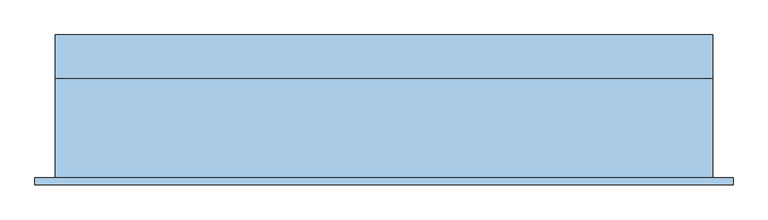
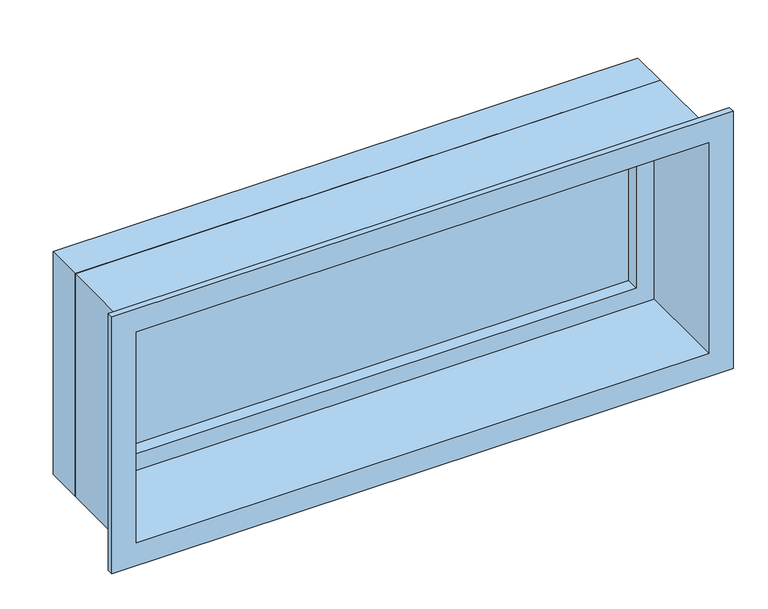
"""IFC4 building model written with IfcOpenShell, lengths in millimetres: window geometry, Vindu FK : 14X6 FK d1."""

from ifc_helpers import new_model, si_unit, frame, origin, place, context, project, spatial, polyline, outline, extrude, faceted_brep, source, transform, mapped, element, save


def window_c16d9a60(model_context):
    return source(origin(), model_context, "Body", "SolidModel", [
        extrude(outline(polyline([(-656.0, 94.0), (656.0, 94.0), (656.0, 70.0), (-656.0, 70.0), (-656.0, 94.0)])), frame((0.0, 0.0, 929.0), z_axis=(0.0, 0.0, 1.0), x_axis=(1.0, 0.0, 0.0)), (0.0, 0.0, 1.0), 482.0),
        faceted_brep([(-695.0, 130.0, 890.0), (-695.0, 38.0, 890.0), (-695.0, 38.0, 1450.0), (-695.0, 130.0, 1450.0), (-656.0, 70.0, 929.0), (-656.0, 130.0, 929.0), (-656.0, 130.0, 1411.0), (-656.0, 70.0, 1411.0), (-638.0, 38.0, 947.0), (-638.0, 70.0, 947.0), (-638.0, 70.0, 1393.0), (-638.0, 38.0, 1393.0), (695.0, 38.0, 1450.0), (695.0, 130.0, 1450.0), (656.0, 130.0, 1411.0), (656.0, 70.0, 1411.0), (638.0, 70.0, 1393.0), (638.0, 38.0, 1393.0), (695.0, 38.0, 890.0), (695.0, 130.0, 890.0), (656.0, 130.0, 929.0), (656.0, 70.0, 929.0), (638.0, 70.0, 947.0), (638.0, 38.0, 947.0)], [[[0, 1, 2, 3]], [[4, 5, 6, 7]], [[8, 9, 10, 11]], [[3, 2, 12, 13]], [[7, 6, 14, 15]], [[11, 10, 16, 17]], [[13, 12, 18, 19]], [[15, 14, 20, 21]], [[17, 16, 22, 23]], [[19, 18, 1, 0]], [[3, 13, 19, 0], [5, 20, 14, 6]], [[21, 20, 5, 4]], [[7, 15, 21, 4], [9, 22, 16, 10]], [[23, 22, 9, 8]], [[1, 18, 12, 2], [11, 17, 23, 8]]]),
        faceted_brep([(-695.0, -172.0, 890.0), (-695.0, 38.0, 890.0), (695.0, 38.0, 890.0), (695.0, -172.0, 890.0), (695.0, 38.0, 1450.0), (695.0, -172.0, 1450.0), (-695.0, 38.0, 1450.0), (680.0, 38.0, 1435.0), (-680.0, 38.0, 1435.0), (-680.0, 38.0, 905.0), (680.0, 38.0, 905.0), (738.0, -172.0, 847.0), (-738.0, -172.0, 847.0), (-738.0, -172.0, 1493.0), (738.0, -172.0, 1493.0), (-695.0, -172.0, 1450.0), (-738.0, -187.0, 847.0), (738.0, -187.0, 847.0), (738.0, -187.0, 1493.0), (-738.0, -187.0, 1493.0), (680.0, -187.0, 905.0), (-680.0, -187.0, 905.0), (-680.0, -187.0, 1435.0), (680.0, -187.0, 1435.0)], [[[0, 1, 2, 3]], [[3, 2, 4, 5]], [[2, 1, 6, 4], [7, 8, 9, 10]], [[11, 12, 13, 14], [5, 15, 0, 3]], [[16, 12, 11, 17]], [[17, 11, 14, 18]], [[18, 19, 16, 17], [20, 21, 22, 23]], [[9, 21, 20, 10]], [[10, 20, 23, 7]], [[15, 6, 1, 0]], [[19, 13, 12, 16]], [[8, 22, 21, 9]], [[5, 4, 6, 15]], [[18, 14, 13, 19]], [[7, 23, 22, 8]]]),
    ])


if __name__ == "__main__":
    model = new_model("IFC4")
    model_context = context("Model", 3, world=origin())
    ifc_project = project(units=[si_unit("LENGTHUNIT", "METRE", prefix="MILLI")], contexts=[model_context])
    site = spatial("IfcSite", under=ifc_project)
    building = spatial("IfcBuilding", under=site)
    placement = place(None, origin())
    window_shape = window_c16d9a60(model_context)
    element("IfcWindow", 1, ObjectType="Vindu FK : 14X6 FK d1", at=placement, inside=building, context=model_context, shape_type="MappedRepresentation", body=[
        mapped(window_shape, transform((0.0, 0.0, 0.0), x_axis=(1.0, 0.0, 0.0), y_axis=(0.0, 1.0, 0.0), z_axis=(0.0, 0.0, 1.0))),
    ])
    save(model, "model.ifc")
